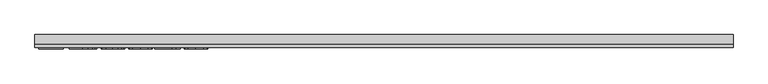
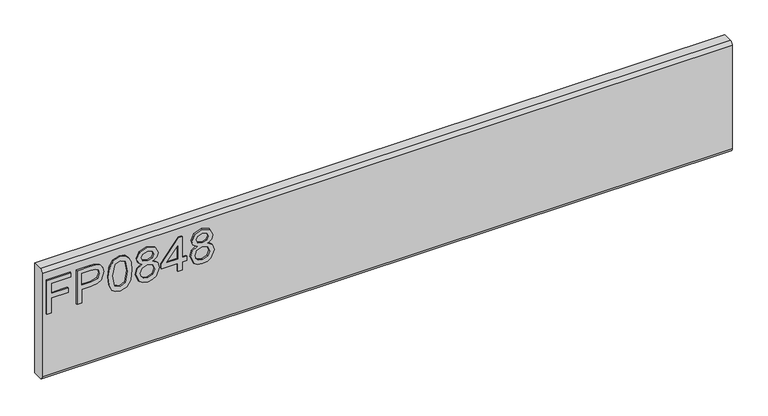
"""IFC4 building model written with IfcOpenShell, lengths in millimetres: furniture geometry."""

import ifcopenshell
import ifcopenshell.guid

model = None  # the IFC model being written
_history = None  # IfcOwnerHistory: only IFC2X3 demands one
_inside = {}  # id of a spatial element -> (the spatial element, [elements in it])
_under = {}  # id of a project, library or spatial element -> (it, [spatial elements below it])
_declared = {}  # id of a project -> (the project, [libraries it declares])
_typed = {}  # id of a type object -> (the type object, [elements of that type])
_made_of = {}  # id of a material, layer set ... -> (it, [elements and type objects made of it])


def new_model(schema):
    """Start an empty IFC model of exactly this schema.

    Asked for "IFC4X3", IfcOpenShell would pick the latest addendum, in which some entities
    have other attributes; the version numbers below select the first issue.
    IFC2X3 requires an IfcOwnerHistory on every rooted entity: one is made here for all.
    """
    global model, _history
    if schema == "IFC4X3":
        model = ifcopenshell.file(schema_version=(4, 3, 0, 0))
    else:
        model = ifcopenshell.file(schema=schema)
    _inside.clear()
    _under.clear()
    _declared.clear()
    _typed.clear()
    _made_of.clear()
    _history = None
    if model.schema == "IFC2X3":
        org = make("IfcOrganization", Name="unknown")
        user = make(
            "IfcPersonAndOrganization",
            ThePerson=make("IfcPerson", FamilyName="unknown"),
            TheOrganization=org,
        )
        app = make(
            "IfcApplication",
            ApplicationDeveloper=org,
            Version="unknown",
            ApplicationFullName="unknown",
            ApplicationIdentifier="unknown",
        )
        _history = make(
            "IfcOwnerHistory",
            OwningUser=user,
            OwningApplication=app,
            ChangeAction="ADDED",
            CreationDate=0,
        )
    return model


def make(cls, **values):
    """One entity of the class cls with the attributes given. An attribute that is None is left unset."""
    return model.create_entity(
        cls, **{name: value for name, value in values.items() if value is not None}
    )


def rooted(cls, **values):
    """An entity with a GlobalId (a new one), such as an element, a storey or a relation."""
    return make(cls, GlobalId=ifcopenshell.guid.new(), OwnerHistory=_history, **values)


def si_unit(unit_type, name, prefix=None):
    """IfcSIUnit, for example si_unit("LENGTHUNIT", "METRE", prefix="MILLI")."""
    return make("IfcSIUnit", UnitType=unit_type, Prefix=prefix, Name=name)


def assignment(units):
    """IfcUnitAssignment: the units of a project."""
    return None if units is None else make("IfcUnitAssignment", Units=units)


def point(xyz):
    """IfcCartesianPoint."""
    return None if xyz is None else make("IfcCartesianPoint", Coordinates=xyz)


def direction(xyz):
    """IfcDirection."""
    return None if xyz is None else make("IfcDirection", DirectionRatios=xyz)


def frame(location, z_axis=None, x_axis=None):
    """IfcAxis2Placement3D, a coordinate frame: its origin and axes. An axis left out is left unset."""
    return make(
        "IfcAxis2Placement3D",
        Location=point(location),
        Axis=direction(z_axis),
        RefDirection=direction(x_axis),
    )


def origin():
    """The frame at (0, 0, 0) with its axes left unset."""
    return frame((0.0, 0.0, 0.0))


def place(relative_to, where):
    """IfcLocalPlacement: puts the frame where relative to a parent placement (None: the world)."""
    return make(
        "IfcLocalPlacement", PlacementRelTo=relative_to, RelativePlacement=where
    )


def context(
    kind, dimensions, precision=None, world=None, true_north=None, identifier=None
):
    """IfcGeometricRepresentationContext, for example the 3D "Model" context."""
    return make(
        "IfcGeometricRepresentationContext",
        ContextIdentifier=identifier,
        ContextType=kind,
        CoordinateSpaceDimension=dimensions,
        Precision=precision,
        WorldCoordinateSystem=world,
        TrueNorth=true_north,
    )


def project(units=None, contexts=None):
    """IfcProject with its units and contexts."""
    return rooted(
        "IfcProject",
        Name="project",
        RepresentationContexts=contexts,
        UnitsInContext=assignment(units),
    )


def spatial(cls, under=None, at=None, **own):
    """A site, building, storey or space (cls), placed at a placement, below another one or the project."""
    s = rooted(cls, ObjectPlacement=at, **own)
    if under is not None:
        _under.setdefault(under.id(), (under, []))[1].append(s)
    return s


def polyline(points):
    """IfcPolyline through the points."""
    return make("IfcPolyline", Points=[point(p) for p in points])


def circle_curve(where, radius):
    """IfcCircle in the frame where."""
    return make("IfcCircle", Position=where, Radius=radius)


def outline(outer, holes=None, kind="AREA"):
    """IfcArbitraryClosedProfileDef: a profile drawn as a closed curve; with holes, ...WithVoids."""
    if holes is None:
        return make("IfcArbitraryClosedProfileDef", ProfileType=kind, OuterCurve=outer)
    return make(
        "IfcArbitraryProfileDefWithVoids",
        ProfileType=kind,
        OuterCurve=outer,
        InnerCurves=holes,
    )


def extrude(swept, where, along, depth):
    """IfcExtrudedAreaSolid: the profile swept, set in the frame where, extruded along a direction by depth."""
    return make(
        "IfcExtrudedAreaSolid",
        SweptArea=swept,
        Position=where,
        ExtrudedDirection=direction(along),
        Depth=depth,
    )


def shape(context_of_items, identifier, shape_type, items):
    """IfcShapeRepresentation: the items that make up one representation, for example the "Body"."""
    return make(
        "IfcShapeRepresentation",
        ContextOfItems=context_of_items,
        RepresentationIdentifier=identifier,
        RepresentationType=shape_type,
        Items=items,
    )


def source(mapping_origin, context_of_items, identifier, shape_type, items):
    """IfcRepresentationMap: a shape defined once, which mapped items show again and again."""
    return make(
        "IfcRepresentationMap",
        MappingOrigin=mapping_origin,
        MappedRepresentation=shape(context_of_items, identifier, shape_type, items),
    )


def transform(
    local_origin,
    x_axis=None,
    y_axis=None,
    z_axis=None,
    scale=None,
    scale2=None,
    scale3=None,
    uniform=True,
):
    """IfcCartesianTransformationOperator3D, or its non-uniform kind. x_axis, y_axis, z_axis: its Axis1, 2, 3."""
    if uniform:
        return make(
            "IfcCartesianTransformationOperator3D",
            Axis1=direction(x_axis),
            Axis2=direction(y_axis),
            LocalOrigin=point(local_origin),
            Scale=scale,
            Axis3=direction(z_axis),
        )
    return make(
        "IfcCartesianTransformationOperator3DnonUniform",
        Axis1=direction(x_axis),
        Axis2=direction(y_axis),
        LocalOrigin=point(local_origin),
        Scale=scale,
        Axis3=direction(z_axis),
        Scale2=scale2,
        Scale3=scale3,
    )


def mapped(mapping_source, mapping_target):
    """IfcMappedItem: shows the shape of a source again, moved by a transform."""
    return make(
        "IfcMappedItem", MappingSource=mapping_source, MappingTarget=mapping_target
    )


def made_of(thing, what):
    """Note that an element or type object is made of a material, layer set ...; save() writes the relation."""
    if what is not None:
        _made_of.setdefault(what.id(), (what, []))[1].append(thing)
    return thing


def element(
    cls,
    number,
    at=None,
    inside=None,
    cuts=None,
    type_object=None,
    material=None,
    context=None,
    identifier="Body",
    shape_type=None,
    held_by="IfcProductDefinitionShape",
    body=None,
    shapes=None,
    **own,
):
    """One element of the class cls, such as IfcWall. Its Tag is "e" and its number.

    at: its placement. inside: the storey or other place that contains it. cuts: it is an
    opening in that element (IfcRelVoidsElement). A single representation is given by context,
    identifier, shape_type and body (its items); several are given by shapes. held_by: the class
    of the entity that holds the representations. save() writes the other relations.
    """
    e = rooted(cls, Tag="e%d" % number, ObjectPlacement=at, **own)
    if body is not None:
        shapes = [shape(context, identifier, shape_type, body)]
    if shapes is not None:
        e.Representation = make(held_by, Representations=shapes)
    if inside is not None:
        _inside.setdefault(inside.id(), (inside, []))[1].append(e)
    if cuts is not None:
        rooted(
            "IfcRelVoidsElement", RelatingBuildingElement=cuts, RelatedOpeningElement=e
        )
    if type_object is not None:
        _typed.setdefault(type_object.id(), (type_object, []))[1].append(e)
    return made_of(e, material)


def aggregate(whole, parts):
    """IfcRelAggregates: a whole, such as a stair, and the parts it consists of."""
    return rooted("IfcRelAggregates", RelatingObject=whole, RelatedObjects=parts)


def save(model, path):
    """Write the relations noted so far, then the file.

    IfcRelAggregates (storeys below a building ...), IfcRelContainedInSpatialStructure (elements
    in a storey), IfcRelDefinesByType, IfcRelAssociatesMaterial and IfcRelDeclares: one each for
    every whole, place, type object, material and project.
    """
    for whole, parts in _under.values():
        aggregate(whole, parts)
    for where, things in _inside.values():
        rooted(
            "IfcRelContainedInSpatialStructure",
            RelatedElements=things,
            RelatingStructure=where,
        )
    for kind, things in _typed.values():
        rooted("IfcRelDefinesByType", RelatedObjects=things, RelatingType=kind)
    for what, things in _made_of.values():
        rooted("IfcRelAssociatesMaterial", RelatedObjects=things, RelatingMaterial=what)
    for by, libraries in _declared.values():
        rooted("IfcRelDeclares", RelatingContext=by, RelatedDefinitions=libraries)
    model.write(path)


def plane_surface(at):
    """IfcPlane: the flat surface through the origin of the frame at, square to its z axis."""
    return make("IfcPlane", Position=at)


def cylinder_surface(at, radius):
    """IfcCylindricalSurface: all points at the distance radius from the z axis of the frame at."""
    return make("IfcCylindricalSurface", Position=at, Radius=radius)


def advanced_brep(points, edges, surfaces, faces):
    """IfcAdvancedBrep: a solid bounded by faces that lie on surfaces and meet in shared edges.

    An edge is (start, end): straight between two places in points (the first is 0);
    or (start, end, curve); or (start, end, curve, False) where it runs against its curve.
    A face is (place in surfaces, loops), or (place, loops, False) where it looks against
    its surface's normal. A loop lists edges by number (the first is 1), with a minus sign
    where the edge is run from its end to its start. The first loop is the outer one.
    """
    corners = [point(p) for p in points]
    vertices = [make("IfcVertexPoint", VertexGeometry=c) for c in corners]
    made = []
    for start, end, *more in edges:
        made.append(
            make(
                "IfcEdgeCurve",
                EdgeStart=vertices[start],
                EdgeEnd=vertices[end],
                EdgeGeometry=more[0] if more else make("IfcPolyline", Points=[corners[start], corners[end]]),
                SameSense=more[1] if len(more) > 1 else True,
            )
        )
    hull = []
    for where, loops, *sense in faces:
        bounds = []
        for j, loop in enumerate(loops):
            ring = [make("IfcOrientedEdge", EdgeElement=made[abs(k) - 1], Orientation=k > 0) for k in loop]
            bounds.append(
                make(
                    "IfcFaceOuterBound" if j == 0 else "IfcFaceBound",
                    Bound=make("IfcEdgeLoop", EdgeList=ring),
                    Orientation=True,
                )
            )
        hull.append(make("IfcAdvancedFace", Bounds=bounds, FaceSurface=surfaces[where], SameSense=sense[0] if sense else True))
    return make("IfcAdvancedBrep", Outer=make("IfcClosedShell", CfsFaces=hull))


def furniture_4f5ec0d2(model_context):
    return source(origin(), model_context, "Body", "SolidModel", [
        extrude(outline(polyline([(679.45, -596.4115385), (679.45, -588.5961538), (707.7807692, -588.5961538), (707.7807692, -559.2884615), (715.5961538, -559.2884615), (715.5961538, -588.5961538), (734.1576923, -588.5961538), (734.1576923, -554.4038462), (741.9730769, -554.4038462), (741.9730769, -596.4115385), (679.45, -596.4115385)])), frame((0.0, -15.0812439, 0.0), z_axis=(0.0, 1.0, 0.0), x_axis=(0.0, 0.0, 1.0)), (0.0, 0.0, 1.0), 2.38125),
        extrude(outline(polyline([(679.45, -543.6576923), (679.45, -535.8423077), (704.85, -535.8423077), (704.85, -519.9520433), (706.2314303, -508.8490835), (710.3757212, -501.795012), (723.8847356, -496.7653846), (732.4099159, -498.6276442), (738.4546274, -503.5504207), (741.3777644, -511.1444712), (741.9730769, -520.4862981), (741.9730769, -543.6576923), (679.45, -543.6576923)]), holes=[polyline([(712.6653846, -535.8423077), (734.1576923, -535.8423077), (734.1576923, -519.6772837), (733.6234375, -511.861899), (730.0820913, -506.5880409), (723.609976, -504.5807692), (715.5350962, -507.9847356), (712.6653846, -519.4941106), (712.6653846, -535.8423077)])]), frame((0.0, -15.0812439, 0.0), z_axis=(0.0, 1.0, 0.0), x_axis=(0.0, 0.0, 1.0)), (0.0, 0.0, 1.0), 2.38125),
        extrude(outline(polyline([(710.2078125, -488.95), (695.000631, -487.3930288), (684.4262019, -482.7221154), (679.9613582, -476.5552885), (678.4730769, -468.4346154), (681.8999399, -456.9939303), (692.295012, -450.1936298), (710.2078125, -447.9192308), (724.8998197, -449.3388221), (734.1500601, -453.0022837), (739.9581731, -459.3064904), (741.9730769, -468.4346154), (738.5691106, -479.8295072), (728.1969351, -486.6527043), (710.2078125, -488.95)]), holes=[polyline([(710.2230769, -481.1346154), (729.9752404, -477.3490385), (734.1576923, -468.5262019), (729.4104567, -459.2759615), (710.2230769, -455.7346154), (690.8296274, -459.3980769), (686.2884615, -468.4346154), (690.814363, -477.4711538), (710.2230769, -481.1346154)])]), frame((0.0, -15.0812439, 0.0), z_axis=(0.0, 1.0, 0.0), x_axis=(0.0, 0.0, 1.0)), (0.0, 0.0, 1.0), 2.38125),
        extrude(outline(polyline([(713.8865385, -429.6935096), (708.2081731, -438.1194712), (697.8588942, -441.0807692), (684.0216947, -435.4329327), (679.8602314, -428.8921274), (678.4730769, -420.5653846), (679.8545072, -412.2386418), (683.9987981, -405.6978365), (697.6451923, -400.05), (707.7578726, -402.8968149), (713.8865385, -411.2082933), (718.7177284, -404.2858774), (726.0828125, -402.0038462), (737.3479567, -407.1326923), (741.9730769, -420.6722356), (737.4548077, -434.0896635), (726.2965144, -439.1269231), (718.740625, -436.814363), (713.8865385, -429.6935096)]), holes=[polyline([(726.0675481, -431.3115385), (731.7764423, -428.4952524), (734.1576923, -420.5653846), (731.7230168, -412.6584135), (725.7164663, -409.8192308), (719.9159856, -412.5668269), (717.55, -420.4737981), (719.93125, -428.5410457), (726.0675481, -431.3115385)]), polyline([(698.1336538, -433.2653846), (706.4222356, -429.960637), (709.7346154, -420.7638221), (706.3764423, -411.2998798), (697.8894231, -407.8653846), (689.5626803, -411.1930288), (686.2884615, -420.5043269), (687.8454327, -427.3427885), (692.2492188, -431.9602764), (698.1336538, -433.2653846)])]), frame((0.0, -15.0812439, 0.0), z_axis=(0.0, 1.0, 0.0), x_axis=(0.0, 0.0, 1.0)), (0.0, 0.0, 1.0), 2.38125),
        extrude(outline(polyline([(679.45, -367.8115385), (679.45, -359.9961538), (694.1038462, -359.9961538), (694.1038462, -352.1807692), (701.9192308, -352.1807692), (701.9192308, -359.9961538), (740.9961538, -359.9961538), (740.9961538, -365.8576923), (701.9192308, -396.1423077), (694.1038462, -396.1423077), (694.1038462, -367.8115385), (679.45, -367.8115385)]), holes=[polyline([(701.9192308, -367.8115385), (701.9192308, -386.5257212), (726.0675481, -367.8115385), (701.9192308, -367.8115385)])]), frame((0.0, -15.0812439, 0.0), z_axis=(0.0, 1.0, 0.0), x_axis=(0.0, 0.0, 1.0)), (0.0, 0.0, 1.0), 2.38125),
        extrude(outline(polyline([(713.8865385, -333.9550481), (708.2081731, -342.3810096), (697.8588942, -345.3423077), (684.0216947, -339.6944712), (679.8602314, -333.1536659), (678.4730769, -324.8269231), (679.8545072, -316.5001803), (683.9987981, -309.959375), (697.6451923, -304.3115385), (707.7578726, -307.1583534), (713.8865385, -315.4698317), (718.7177284, -308.5474159), (726.0828125, -306.2653846), (737.3479567, -311.3942308), (741.9730769, -324.933774), (737.4548077, -338.3512019), (726.2965144, -343.3884615), (718.740625, -341.0759014), (713.8865385, -333.9550481)]), holes=[polyline([(726.0675481, -335.5730769), (731.7764423, -332.7567909), (734.1576923, -324.8269231), (731.7230168, -316.9199519), (725.7164663, -314.0807692), (719.9159856, -316.8283654), (717.55, -324.7353365), (719.93125, -332.8025841), (726.0675481, -335.5730769)]), polyline([(698.1336538, -337.5269231), (706.4222356, -334.2221755), (709.7346154, -325.0253606), (706.3764423, -315.5614183), (697.8894231, -312.1269231), (689.5626803, -315.4545673), (686.2884615, -324.7658654), (687.8454327, -331.6043269), (692.2492188, -336.2218149), (698.1336538, -337.5269231)])]), frame((0.0, -15.0812439, 0.0), z_axis=(0.0, 1.0, 0.0), x_axis=(0.0, 0.0, 1.0)), (0.0, 0.0, 1.0), 2.38125),
        advanced_brep(
        [(603.25, 9.5250061, 762.0), (603.25, -6.7309939, 762.0), (603.25, -12.6999939, 756.031), (603.25, -12.6999939, 564.769), (603.25, -6.7309939, 558.8), (603.25, 9.5250061, 558.8), (-603.25, 9.5250061, 762.0), (-603.25, 9.5250061, 558.8), (-603.25, -6.7309939, 558.8), (-603.25, -12.6999939, 564.769), (-603.25, -12.6999939, 756.0310121), (-603.25, -6.7309939, 762.0)],
        [
            (0, 1),
            (1, 2, circle_curve(frame((603.25, -6.7309939, 756.031), z_axis=(1.0, 0.0, 0.0), x_axis=(0.0, 1.0, 0.0)), 5.969)),
            (2, 3),
            (3, 4, circle_curve(frame((603.25, -6.7309939, 564.769), z_axis=(1.0, 0.0, 0.0), x_axis=(0.0, 1.0, 0.0)), 5.969)),
            (4, 5),
            (5, 0),
            (6, 7),
            (7, 8),
            (8, 9, circle_curve(frame((-603.25, -6.7309939, 564.769), z_axis=(-1.0, 0.0, 0.0), x_axis=(0.0, 1.0, 0.0)), 5.969)),
            (9, 10),
            (10, 11, circle_curve(frame((-603.25, -6.7309939, 756.031), z_axis=(-1.0, 0.0, 0.0), x_axis=(0.0, 1.0, 0.0)), 5.969)),
            (11, 6),
            (0, 6),
            (11, 1),
            (10, 2),
            (9, 3),
            (8, 4),
            (7, 5),
        ],
        [
            plane_surface(frame((603.25, -6.7309939, 762.0), z_axis=(1.0, 0.0, 0.0), x_axis=(0.0, -1.0, 0.0))),
            plane_surface(frame((-603.25, -6.7309939, 762.0), z_axis=(-1.0, 0.0, 0.0), x_axis=(0.0, 1.0, 0.0))),
            plane_surface(frame((603.25, 9.5250061, 762.0), z_axis=(0.0, 0.0, 1.0), x_axis=(-1.0, 0.0, 0.0))),
            cylinder_surface(frame((-603.25, -6.7309939, 756.031), z_axis=(1.0, 0.0, 0.0), x_axis=(0.0, 1.0, 0.0)), 5.969),
            plane_surface(frame((603.25, -12.6999939, 756.0310121), z_axis=(0.0, -1.0, 0.0), x_axis=(-1.0, 0.0, 0.0))),
            cylinder_surface(frame((-603.25, -6.7309939, 564.769), z_axis=(1.0, 0.0, 0.0), x_axis=(0.0, 1.0, 0.0)), 5.969),
            plane_surface(frame((603.25, -6.7309939, 558.8), z_axis=(0.0, 0.0, -1.0), x_axis=(-1.0, 0.0, 0.0))),
            plane_surface(frame((603.25, 9.5250061, 558.8), z_axis=(0.0, 1.0, 0.0), x_axis=(-1.0, 0.0, 0.0))),
        ],
        [
            (0, [[1, 2, 3, 4, 5, 6]]),
            (1, [[7, 8, 9, 10, 11, 12]]),
            (2, [[-1, 13, -12, 14]]),
            (3, [[-2, -14, -11, 15]]),
            (4, [[-3, -15, -10, 16]]),
            (5, [[-4, -16, -9, 17]]),
            (6, [[-5, -17, -8, 18]]),
            (7, [[-6, -18, -7, -13]]),
        ],
    ),
    ])


if __name__ == "__main__":
    model = new_model("IFC4")
    model_context = context("Model", 3, world=origin())
    ifc_project = project(units=[si_unit("LENGTHUNIT", "METRE", prefix="MILLI")], contexts=[model_context])
    site = spatial("IfcSite", under=ifc_project)
    building = spatial("IfcBuilding", under=site)
    placement = place(None, origin())
    furniture_shape = furniture_4f5ec0d2(model_context)
    element("IfcFurniture", 1, ObjectType="HermanMiller_Ethospace_E1420_FaceTile : Ptd 08\"H x 48\"W", at=placement, inside=building, context=model_context, shape_type="MappedRepresentation", body=[
        mapped(furniture_shape, transform((0.0, 0.0, 0.0), x_axis=(1.0, 0.0, 0.0), y_axis=(0.0, 1.0, 0.0), z_axis=(0.0, 0.0, 1.0))),
    ])
    save(model, "model.ifc")
